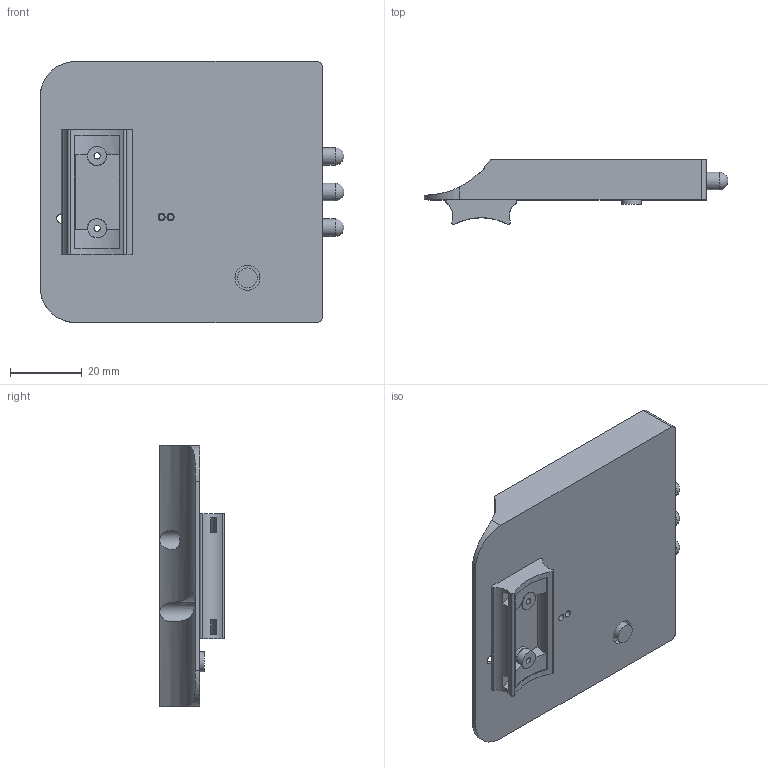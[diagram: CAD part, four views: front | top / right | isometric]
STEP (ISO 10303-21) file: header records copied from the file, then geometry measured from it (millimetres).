
FILE_DESCRIPTION(/* description */ ('Unknown'),/* implementation_level */ '2;1');
FILE_NAME(/* name */ 'BikeLight_Rear_MTB',/* time_stamp */ '2020-06-24T22:57:59+02:00',/* author */ ('Unknown'),/* organization */ ('Unknown'),/* preprocessor_version */ 'ST-DEVELOPER v16.7',/* originating_system */ 'Solid Edge',/* authorisation */ 'Unknown');
FILE_SCHEMA (('AUTOMOTIVE_DESIGN {1 0 10303 214 3 1 1}'));
Length unit declared in the file: millimetre
Products named in the file (8): BikeLight_Rear_MTB; Li_Battery_3.7V_240mAh; SolarPanel_6V_0.5W; Mobile_Charger_PCB_New; Holder_light_rear_MTB_adapter; Holder_light_3LED_rear_MTB; switch_12x12x9; LED_rear
Assembly tree (7 placements, depth 2):
  BikeLight_Rear_MTB
    Li_Battery_3.7V_240mAh
    SolarPanel_6V_0.5W
    Mobile_Charger_PCB_New
    Holder_light_rear_MTB_adapter
    Holder_light_3LED_rear_MTB
    switch_12x12x9
    LED_rear
Bounding box: 85 x 18.17 x 73 mm (x, y, z)
Volume: 34784.3 mm3; surface area: 32524.8 mm2
Topology: 9 solids, 9 shells, 163 faces, 407 edges, 272 vertices
Faces by surface type: plane 98, cylinder 62, sphere 3
Full cylindrical faces by diameter (mm): 1.5 x2, 1.75 x2, 2 x4, 2.5 x1, 3 x3, 4.9 x3, 5.25 x2, 5.5 x2, 5.6 x3, 7 x1
Entity records: 4988 total; most frequent: CARTESIAN_POINT 906, DIRECTION 829, ORIENTED_EDGE 730, EDGE_CURVE 365, AXIS2_PLACEMENT_3D 306, VERTEX_POINT 256, EDGE_LOOP 223, FACE_BOUND 223
